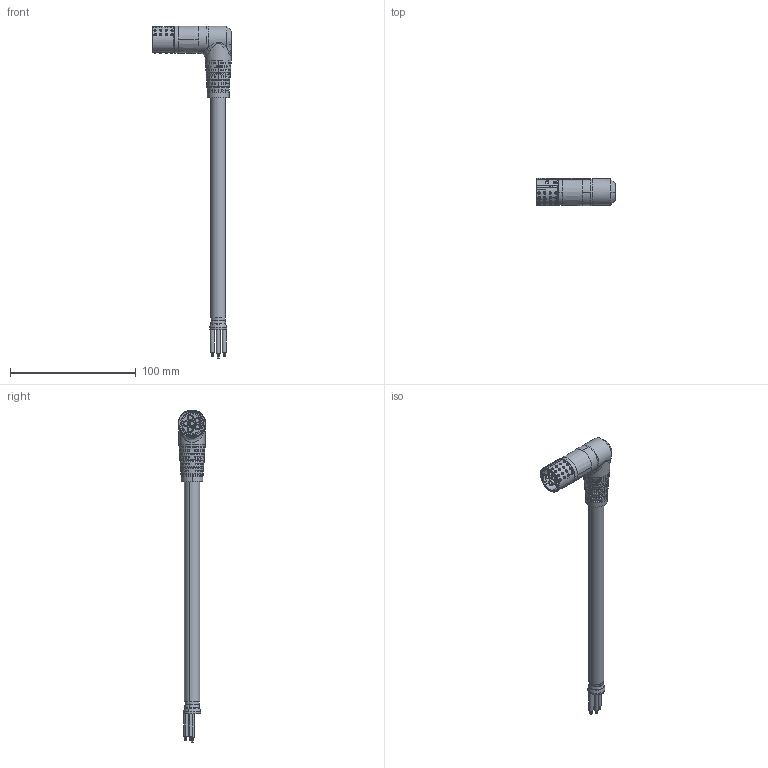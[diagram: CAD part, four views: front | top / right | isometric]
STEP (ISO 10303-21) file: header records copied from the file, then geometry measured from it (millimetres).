
FILE_DESCRIPTION (( 'STEP AP214' ), '1' );
FILE_NAME ('W-TEC 15M GLATT-BU_90°R 4x.STEP', '2021-07-05T13:41:49', ( '' ), ( '' ), 'SwSTEP 2.0', 'SolidWorks 2021', '' );
FILE_SCHEMA (( 'AUTOMOTIVE_DESIGN' ));
Length unit declared in the file: millimetre
Products named in the file (1): W-TEC 15M GLATT-BU_90訌 4x
Bounding box: 62.81 x 21.83 x 264.33 mm (x, y, z)
Surface area: 21144.9 mm2 (no closed solid volume)
Topology: 0 solids, 5 shells, 1571 faces, 3845 edges, 2500 vertices
Faces by surface type: cylinder 635, plane 472, bspline 423, cone 40, torus 1
Entity records: 85929 total; most frequent: CARTESIAN_POINT 38576, ORIENTED_EDGE 7461, DIRECTION 6358, EDGE_CURVE 3780, AXIS2_PLACEMENT_3D 2632, VERTEX_POINT 2500, EDGE_LOOP 1872, FACE_OUTER_BOUND 1571
